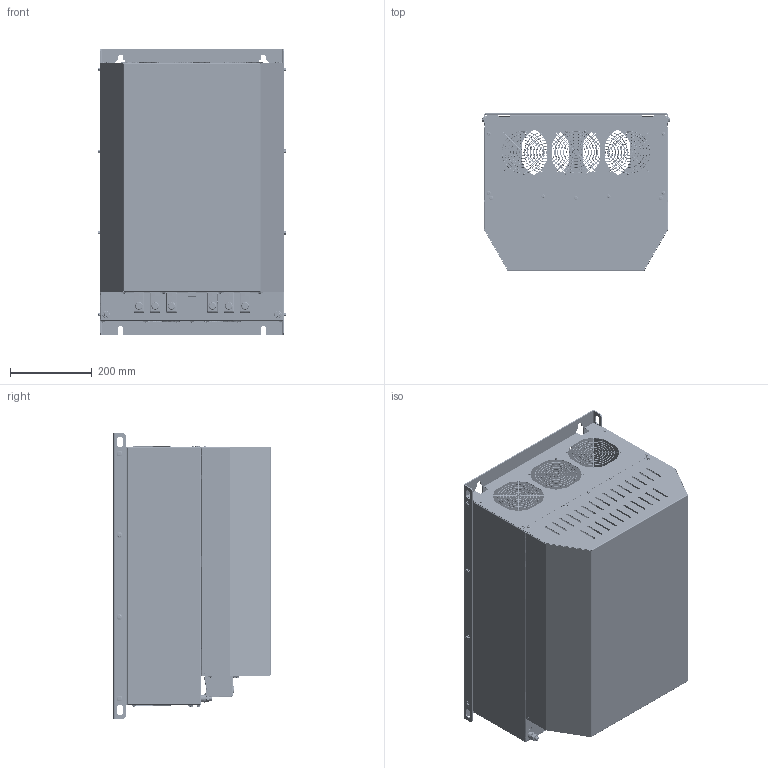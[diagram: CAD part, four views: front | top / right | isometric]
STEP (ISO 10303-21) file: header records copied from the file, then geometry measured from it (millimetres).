
FILE_DESCRIPTION((''),'2;1');
FILE_NAME('C:\Users\Samuel.Meier\Desktop\Fuer_Kamenka\EcoSine_Light_Typ_F.stp','2012-10-10T13:46:35',('Samuel.Meier'),(''),'Autodesk Inventor 2010','Autodesk Inventor 2010','');
FILE_SCHEMA(('AUTOMOTIVE_DESIGN { 1 0 10303 214 1 1 1 1 }'));
Length unit declared in the file: millimetre
Products named in the file (1): Bauteil35
Bounding box: 458.7 x 385 x 700 mm (x, y, z)
Volume: 3294137.7 mm3; surface area: 3071058.2 mm2
Topology: 40 solids, 138 shells, 5708 faces, 14437 edges, 9179 vertices
Faces by surface type: plane 2442, cylinder 1369, bspline 1226, cone 380, torus 249, sphere 42
Full cylindrical faces by diameter (mm): 3.2 x4, 3.3 x6, 4 x92, 4.3 x20, 5.5 x10, 6 x16, 6.5 x4, 6.8 x4, 7 x4, 7.3 x2, 7.9 x20, 8.3 x6, 9 x20, 9.188 x2, 9.9 x2, 10 x28, 10.5 x2, 11 x1, 11.05 x8, 12 x1, 12.7 x1, 14 x8, 15.4 x2, 16.5 x2, 20 x2
Entity records: 223739 total; most frequent: CARTESIAN_POINT 91725, ORIENTED_EDGE 27410, DIRECTION 24322, EDGE_CURVE 13705, AXIS2_PLACEMENT_3D 9393, VERTEX_POINT 8981, EDGE_LOOP 6850, STYLED_ITEM 5709
